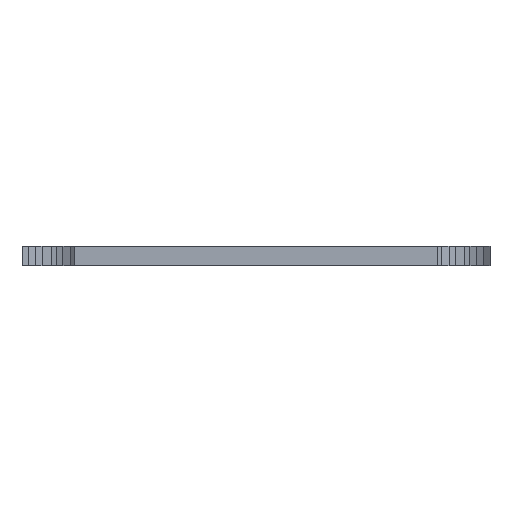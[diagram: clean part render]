
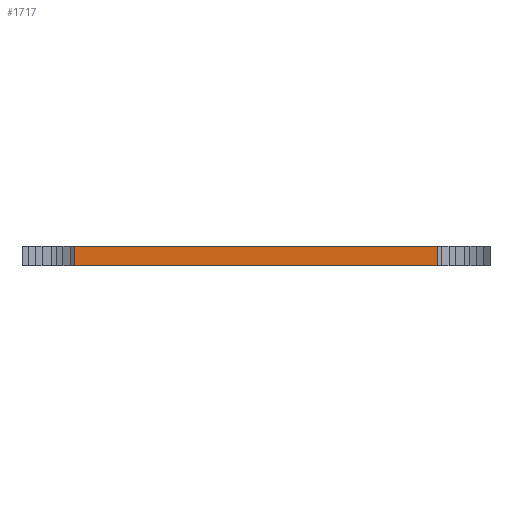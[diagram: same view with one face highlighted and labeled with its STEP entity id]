
A CAD part, left-side view. The second image highlights one B-rep face of the part: STEP entity #1717.
In plain terms, the highlighted planar face has unit normal (-1, 0, 0).
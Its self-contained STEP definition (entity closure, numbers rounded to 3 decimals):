
#19=DIRECTION('',(0.0,1.0,0.0));
#20=VECTOR('',#19,22.48);
#21=CARTESIAN_POINT('',(-22.49,-11.23,7.7));
#22=LINE('',#21,#20);
#23=VERTEX_POINT('',#21);
#24=CARTESIAN_POINT('',(-22.49,11.25,7.7));
#25=VERTEX_POINT('',#24);
#26=EDGE_CURVE('',#23,#25,#22,.T.);
#253=DIRECTION('',(0.0,-1.0,0.0));
#366=DIRECTION('',(-1.0,0.0,0.0));
#890=CARTESIAN_POINT('',(-22.49,11.25,8.9));
#891=VERTEX_POINT('',#890);
#894=VECTOR('',#253,22.48);
#895=LINE('',#890,#894);
#896=CARTESIAN_POINT('',(-22.49,-11.23,8.9));
#897=VERTEX_POINT('',#896);
#898=EDGE_CURVE('',#891,#897,#895,.T.);
#907=DIRECTION('',(0.0,0.0,1.0));
#1695=VECTOR('',#907,1.2);
#1696=LINE('',#24,#1695);
#1697=EDGE_CURVE('',#25,#891,#1696,.T.);
#1706=ORIENTED_EDGE('',*,*,#26,.F.);
#1707=VECTOR('',#907,1.2);
#1708=LINE('',#21,#1707);
#1709=EDGE_CURVE('',#23,#897,#1708,.T.);
#1710=ORIENTED_EDGE('',*,*,#1709,.T.);
#1711=ORIENTED_EDGE('',*,*,#898,.F.);
#1712=ORIENTED_EDGE('',*,*,#1697,.F.);
#1713=EDGE_LOOP('',(#1706,#1710,#1711,#1712));
#1714=FACE_OUTER_BOUND('',#1713,.T.);
#1715=AXIS2_PLACEMENT_3D('',#24,#366,#19);
#1716=PLANE('',#1715);
#1717=ADVANCED_FACE('',(#1714),#1716,.T.);
